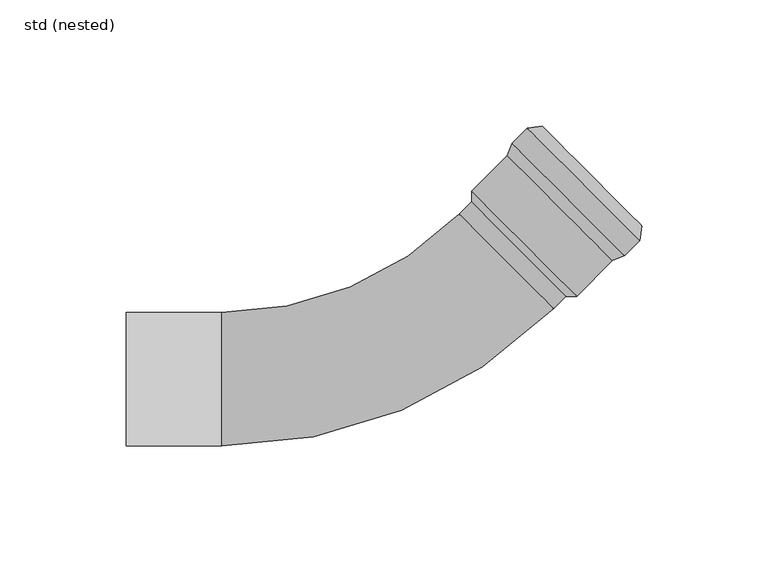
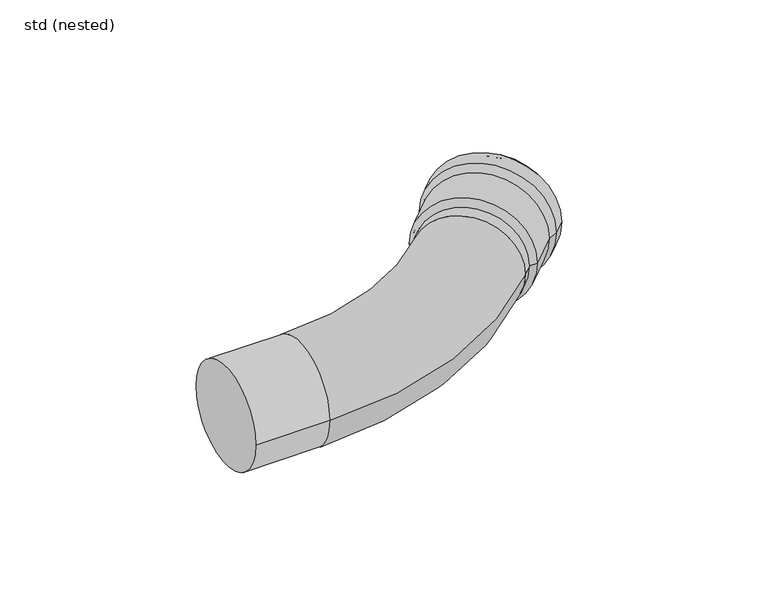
"""IFC4 building model written with IfcOpenShell, lengths in millimetres: pipe fitting geometry, ZZZ_do not use_PIF_ST_UN_GM-X pipe bend_ACO : std (nested)."""

from ifc_helpers import new_model, si_unit, point, frame, origin, place, context, project, spatial, polyline, circle_curve, ellipse_curve, trimmed, source, transform, mapped, element, save
from ifc_brep_helpers import plane_surface, cylinder_surface, revolved_surface, advanced_brep


def std_nested_4ea8f2c9(model_context):
    return source(origin(), model_context, "Body", "AdvancedBrep", [
        advanced_brep(
        [(93.578192, 48.9490755, 0.0), (49.0559084, 93.5222318, 0.0), (54.9989959, 99.4585363, 0.0), (99.5212795, 54.88538, 0.0), (88.7687361, 46.9719223, 0.0), (47.0732642, 88.715037, 0.0), (60.8685061, 100.3744238, 0.0), (100.4438693, 60.7538404, 0.0), (74.6185277, 32.8378641, 0.0), (32.9230559, 74.5809788, 0.0), (70.3758878, 32.8402866, 0.0), (32.9206333, 70.3383388, 0.0), (72.498419, 34.9603953, 0.0), (35.0431646, 72.4584475, 0.0), (87.9209349, 48.2451988, 0.0), (48.3455717, 87.8657823, 0.0), (33.9831102, 73.5197131, 0.0), (73.5584734, 33.8991297, 0.0), (92.7303907, 50.222352, 0.0), (50.3282159, 92.6729771, 0.0), (98.1153924, 55.6012076, 0.0), (55.7132176, 98.0518327, 0.0), (98.9620692, 60.9867965, 0.0), (61.0997699, 98.8923587, 0.0)],
        [
            (0, 1, circle_curve(frame((71.3170502, 71.2356537, 0.0), z_axis=(0.7075104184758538, 0.706702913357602, 0.0), x_axis=(-0.706702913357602, 0.7075104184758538, 0.0)), 31.5)),
            (1, 2),
            (2, 3, circle_curve(frame((77.2601377, 77.1719581, 0.0), z_axis=(-0.7075104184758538, -0.706702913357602, 0.0), x_axis=(-0.706702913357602, 0.7075104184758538, 0.0)), 31.5)),
            (3, 0),
            (1, 0, circle_curve(frame((71.3170502, 71.2356537, 0.0), z_axis=(0.7075104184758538, 0.706702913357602, 0.0), x_axis=(-0.706702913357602, 0.7075104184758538, 0.0)), 31.5)),
            (3, 2, circle_curve(frame((77.2601377, 77.1719581, 0.0), z_axis=(-0.7075104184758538, -0.706702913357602, 0.0), x_axis=(-0.706702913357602, 0.7075104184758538, 0.0)), 31.5)),
            (4, 5, circle_curve(frame((67.9210002, 67.8434797, 0.0), z_axis=(0.7075104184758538, 0.706702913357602, 0.0), x_axis=(-0.706702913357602, 0.7075104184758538, 0.0)), 29.5)),
            (5, 1),
            (0, 4),
            (5, 4, circle_curve(frame((67.9210002, 67.8434797, 0.0), z_axis=(0.7075104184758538, 0.706702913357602, 0.0), x_axis=(-0.706702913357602, 0.7075104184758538, 0.0)), 29.5)),
            (2, 6),
            (6, 7, circle_curve(frame((80.6561877, 80.5641321, 0.0), z_axis=(-0.7075104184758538, -0.706702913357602, 0.0), x_axis=(-0.706702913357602, 0.7075104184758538, 0.0)), 28.0)),
            (7, 3),
            (7, 6, circle_curve(frame((80.6561877, 80.5641321, 0.0), z_axis=(-0.7075104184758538, -0.706702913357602, 0.0), x_axis=(-0.706702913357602, 0.7075104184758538, 0.0)), 28.0)),
            (8, 9, circle_curve(frame((53.7707918, 53.7094214, 0.0), z_axis=(0.7075104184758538, 0.706702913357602, 0.0), x_axis=(-0.706702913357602, 0.7075104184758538, 0.0)), 29.5)),
            (9, 5),
            (4, 8),
            (9, 8, circle_curve(frame((53.7707918, 53.7094214, 0.0), z_axis=(0.7075104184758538, 0.706702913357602, 0.0), x_axis=(-0.706702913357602, 0.7075104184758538, 0.0)), 29.5)),
            (10, 11, circle_curve(frame((51.6482605, 51.5893127, 0.0), z_axis=(0.7075104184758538, 0.706702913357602, 0.0), x_axis=(-0.706702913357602, 0.7075104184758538, 0.0)), 26.5)),
            (11, 9),
            (8, 10),
            (11, 10, circle_curve(frame((51.6482605, 51.5893127, 0.0), z_axis=(0.7075104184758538, 0.706702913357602, 0.0), x_axis=(-0.706702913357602, 0.7075104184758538, 0.0)), 26.5)),
            (12, 13, circle_curve(frame((53.7707918, 53.7094214, 0.0), z_axis=(0.7075104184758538, 0.706702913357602, 0.0), x_axis=(-0.706702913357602, 0.7075104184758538, 0.0)), 26.5)),
            (13, 11),
            (10, 12),
            (13, 12, circle_curve(frame((53.7707918, 53.7094214, 0.0), z_axis=(0.7075104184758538, 0.706702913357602, 0.0), x_axis=(-0.706702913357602, 0.7075104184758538, 0.0)), 26.5)),
            (14, 15, circle_curve(frame((68.1332533, 68.0554906, 0.0), z_axis=(0.7075104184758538, 0.706702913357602, 0.0), x_axis=(-0.706702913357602, 0.7075104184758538, 0.0)), 28.0)),
            (15, 16),
            (16, 17, circle_curve(frame((53.7707918, 53.7094214, 0.0), z_axis=(-0.7075104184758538, -0.706702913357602, 0.0), x_axis=(-0.706702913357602, 0.7075104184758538, 0.0)), 28.0)),
            (17, 14),
            (15, 14, circle_curve(frame((68.1332533, 68.0554906, 0.0), z_axis=(0.7075104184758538, 0.706702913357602, 0.0), x_axis=(-0.706702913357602, 0.7075104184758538, 0.0)), 28.0)),
            (17, 16, circle_curve(frame((53.7707918, 53.7094214, 0.0), z_axis=(-0.7075104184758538, -0.706702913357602, 0.0), x_axis=(-0.706702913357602, 0.7075104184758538, 0.0)), 28.0)),
            (18, 19, circle_curve(frame((71.5293033, 71.4476645, 0.0), z_axis=(0.7075104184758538, 0.706702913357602, 0.0), x_axis=(-0.706702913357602, 0.7075104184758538, 0.0)), 30.0)),
            (19, 15),
            (14, 18),
            (19, 18, circle_curve(frame((71.5293033, 71.4476645, 0.0), z_axis=(0.7075104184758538, 0.706702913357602, 0.0), x_axis=(-0.706702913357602, 0.7075104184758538, 0.0)), 30.0)),
            (20, 21, circle_curve(frame((76.914305, 76.8265201, 0.0), z_axis=(0.7075104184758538, 0.706702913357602, 0.0), x_axis=(-0.706702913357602, 0.7075104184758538, 0.0)), 30.0)),
            (21, 19),
            (18, 20),
            (21, 20, circle_curve(frame((76.914305, 76.8265201, 0.0), z_axis=(0.7075104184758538, 0.706702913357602, 0.0), x_axis=(-0.706702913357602, 0.7075104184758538, 0.0)), 30.0)),
            (22, 23, circle_curve(frame((80.0309195, 79.9395776, 0.0), z_axis=(0.7075104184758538, 0.706702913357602, 0.0), x_axis=(-0.706702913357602, 0.7075104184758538, 0.0)), 26.7879887)),
            (23, 21),
            (20, 22),
            (23, 22, circle_curve(frame((80.0309195, 79.9395776, 0.0), z_axis=(0.7075104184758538, 0.706702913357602, 0.0), x_axis=(-0.706702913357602, 0.7075104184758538, 0.0)), 26.7879887)),
            (6, 23),
            (22, 7),
            (16, 13),
            (12, 17),
        ],
        [
            cylinder_surface(frame((78.282074, 78.1927281, 0.0), z_axis=(-0.7075104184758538, -0.706702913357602, 0.0), x_axis=(-0.706702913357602, 0.7075104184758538, 0.0)), 31.5),
            revolved_surface(polyline([(49.0559084, 93.5222318, 0.0), (47.0732642, 88.715037, 0.0)]), (78.282074, 78.1927281, 0.0), (-0.7075104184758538, -0.706702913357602, 0.0)),
            revolved_surface(polyline([(60.8685061, 100.3744238, 0.0), (54.9989959, 99.4585363, 0.0)]), (78.282074, 78.1927281, 0.0), (-0.7075104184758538, -0.706702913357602, 0.0)),
            cylinder_surface(frame((78.282074, 78.1927281, 0.0), z_axis=(-0.7075104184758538, -0.706702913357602, 0.0), x_axis=(-0.706702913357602, 0.7075104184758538, 0.0)), 29.5),
            revolved_surface(polyline([(32.9230559, 74.5809788, 0.0), (32.9206333, 70.3383388, 0.0)]), (78.282074, 78.1927281, 0.0), (-0.7075104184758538, -0.706702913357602, 0.0)),
            revolved_surface(polyline([(32.92063331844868, 70.33833876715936, 0.0), (35.04316458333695, 72.45844751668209, 0.0)]), (78.282074, 78.1927281, 0.0), (-0.7075104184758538, -0.706702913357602, 0.0)),
            revolved_surface(polyline([(33.983110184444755, 73.51971311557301, 0.0), (48.34557173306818, 87.86578231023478, 0.0)]), (78.282074, 78.1927281, 0.0), (-0.7075104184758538, -0.706702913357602, 0.0)),
            revolved_surface(polyline([(48.3455717, 87.8657823, 0.0), (50.3282159, 92.6729771, 0.0)]), (78.282074, 78.1927281, 0.0), (-0.7075104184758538, -0.706702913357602, 0.0)),
            revolved_surface(polyline([(50.32821586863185, 92.67297708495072, 0.0), (55.71321758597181, 98.05183272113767, 0.0)]), (78.282074, 78.1927281, 0.0), (-0.7075104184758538, -0.706702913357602, 0.0)),
            revolved_surface(polyline([(55.7132176, 98.0518327, 0.0), (61.0997699, 98.8923587, 0.0)]), (78.282074, 78.1927281, 0.0), (-0.7075104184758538, -0.706702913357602, 0.0)),
            revolved_surface(polyline([(61.0997699, 98.8923587, 0.0), (60.8685061, 100.3744238, 0.0)]), (78.282074, 78.1927281, 0.0), (-0.7075104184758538, -0.706702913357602, 0.0)),
            plane_surface(frame((53.7707918, 53.7094214, 0.0), z_axis=(0.7075104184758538, 0.706702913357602, 0.0), x_axis=(-0.706702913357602, 0.7075104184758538, 0.0))),
        ],
        [
            (0, [[1, 2, 3, 4]]),
            (0, [[5, -4, 6, -2]]),
            (1, [[7, 8, -1, 9]]),
            (1, [[10, -9, -5, -8]]),
            (2, [[-3, 11, 12, 13]]),
            (2, [[-6, -13, 14, -11]]),
            (3, [[15, 16, -7, 17]]),
            (3, [[18, -17, -10, -16]]),
            (4, [[19, 20, -15, 21]]),
            (4, [[22, -21, -18, -20]]),
            (5, [[23, 24, -19, 25]]),
            (5, [[26, -25, -22, -24]]),
            (6, [[27, 28, 29, 30]]),
            (6, [[31, -30, 32, -28]]),
            (7, [[33, 34, -27, 35]]),
            (7, [[36, -35, -31, -34]]),
            (8, [[37, 38, -33, 39]]),
            (8, [[40, -39, -36, -38]]),
            (9, [[41, 42, -37, 43]]),
            (9, [[44, -43, -40, -42]]),
            (10, [[-12, 45, -41, 46]]),
            (10, [[-14, -46, -44, -45]]),
            (11, [[-29, 47, -23, 48]]),
            (11, [[-32, -48, -26, -47]]),
        ],
    ),
        advanced_brep(
        [(27.9680604, 65.3914184, 0.0), (-66.0, 26.5, 0.0), (-66.0, -26.5, 0.0), (65.4233148, 27.8933662, 0.0), (46.6956876, 46.6423923, 26.5), (46.6956876, 46.6423923, -26.5), (-104.0, -26.5, 0.0), (-104.0, 26.5, 0.0), (72.498419, 34.9603953, 0.0), (35.0431646, 72.4584475, 0.0)],
        [
            (0, 1, circle_curve(frame((-66.0, 159.4668502, 0.0), z_axis=(0.0, 0.0, -1.0), x_axis=(0.0, -1.0, 0.0)), 132.9668502)),
            (1, 2, circle_curve(frame((-66.0, 0.0, 0.0), z_axis=(1.0, 0.0, 0.0), x_axis=(0.0, 1.0, 0.0)), 26.5)),
            (2, 3, circle_curve(frame((-66.0, 159.4668502, 0.0), z_axis=(0.0, 0.0, 1.0), x_axis=(0.0, -1.0, 0.0)), 185.9668502)),
            (3, 4, circle_curve(frame((46.6956876, 46.6423923, 0.0), z_axis=(-0.7075104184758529, -0.7067029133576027, 0.0), x_axis=(-0.7067029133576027, 0.7075104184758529, 0.0)), 26.5)),
            (4, 0, circle_curve(frame((46.6956876, 46.6423923, 0.0), z_axis=(-0.7075104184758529, -0.7067029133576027, 0.0), x_axis=(-0.7067029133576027, 0.7075104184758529, 0.0)), 26.5)),
            (0, 5, circle_curve(frame((46.6956876, 46.6423923, 0.0), z_axis=(-0.7075104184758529, -0.7067029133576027, 0.0), x_axis=(-0.7067029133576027, 0.7075104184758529, 0.0)), 26.5)),
            (5, 3, circle_curve(frame((46.6956876, 46.6423923, 0.0), z_axis=(-0.707510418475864, -0.7067029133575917, 0.0), x_axis=(-0.7067029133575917, 0.707510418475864, 0.0)), 26.5)),
            (2, 1, circle_curve(frame((-66.0, 0.0, 0.0), z_axis=(1.0, 0.0, 0.0), x_axis=(0.0, 1.0, 0.0)), 26.5)),
            (6, 7, circle_curve(frame((-104.0, 0.0, 0.0), z_axis=(-1.0, 0.0, 0.0), x_axis=(0.0, 1.0, 0.0)), 26.5)),
            (7, 6, circle_curve(frame((-104.0, 0.0, 0.0), z_axis=(-1.0, 0.0, 0.0), x_axis=(0.0, 1.0, 0.0)), 26.5)),
            (7, 1),
            (2, 6),
            (8, 9, circle_curve(frame((53.7707918, 53.7094214, 0.0), z_axis=(0.7075104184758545, 0.7067029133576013, 0.0), x_axis=(-0.7067029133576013, 0.7075104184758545, 0.0)), 26.5)),
            (9, 8, circle_curve(frame((53.7707918, 53.7094214, 0.0), z_axis=(0.7075104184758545, 0.7067029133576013, 0.0), x_axis=(-0.7067029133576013, 0.7075104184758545, 0.0)), 26.5)),
            (9, 0),
            (3, 8),
        ],
        [
            revolved_surface(trimmed(ellipse_curve(frame((-66.0, 0.0, 0.0), z_axis=(-1.0, 0.0, 0.0), x_axis=(0.0, 1.0, 0.0)), 26.5, 26.5), [point((-66.0, -26.5, 0.0))], [point((-66.0, 26.5, 0.0))], True, "CARTESIAN"), (-66.0, 159.4668502, 0.0), (0.0, 0.0, 1.0)),
            revolved_surface(trimmed(ellipse_curve(frame((-66.0, 0.0, 0.0), z_axis=(-1.0, 0.0, 0.0), x_axis=(0.0, 1.0, 0.0)), 26.5, 26.5), [point((-66.0, 26.5, 0.0))], [point((-66.0, -26.5, 0.0))], True, "CARTESIAN"), (-66.0, 159.4668502, 0.0), (0.0, 0.0, 1.0)),
            plane_surface(frame((-104.0, 26.5, 0.0), z_axis=(-1.0, 0.0, 0.0), x_axis=(0.0, 0.0, -1.0))),
            cylinder_surface(frame((-104.0, 0.0, 0.0), z_axis=(1.0, 0.0, 0.0), x_axis=(0.0, 1.0, 0.0)), 26.5),
            plane_surface(frame((53.7707918, 53.7094214, 0.0), z_axis=(0.7075104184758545, 0.7067029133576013, 0.0), x_axis=(0.0, 0.0, 1.0))),
            cylinder_surface(frame((46.6956876, 46.6423923, 0.0), z_axis=(-0.7075104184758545, -0.7067029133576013, 0.0), x_axis=(-0.7067029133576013, 0.7075104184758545, 0.0)), 26.5),
        ],
        [
            (0, [[1, 2, 3, 4, 5]]),
            (1, [[-1, 6, 7, -3, 8]]),
            (2, [[9, 10]]),
            (3, [[-10, 11, -8, 12]]),
            (3, [[-9, -12, -2, -11]]),
            (4, [[13, 14]]),
            (5, [[-14, 15, -5, -4, 16]]),
            (5, [[-13, -16, -7, -6, -15]]),
        ],
    ),
    ])


if __name__ == "__main__":
    model = new_model("IFC4")
    model_context = context("Model", 3, world=origin())
    ifc_project = project(units=[si_unit("LENGTHUNIT", "METRE", prefix="MILLI")], contexts=[model_context])
    site = spatial("IfcSite", under=ifc_project)
    building = spatial("IfcBuilding", under=site)
    placement = place(None, origin())
    std_nested_shape = std_nested_4ea8f2c9(model_context)
    element("IfcPipeFitting", 1, ObjectType="ZZZ_do not use_PIF_ST_UN_GM-X pipe bend_ACO : std (nested)", at=placement, inside=building, context=model_context, shape_type="MappedRepresentation", body=[
        mapped(std_nested_shape, transform((0.0, 0.0, 0.0), x_axis=(1.0, 0.0, 0.0), y_axis=(0.0, 1.0, 0.0), z_axis=(0.0, 0.0, 1.0))),
    ])
    save(model, "model.ifc")
